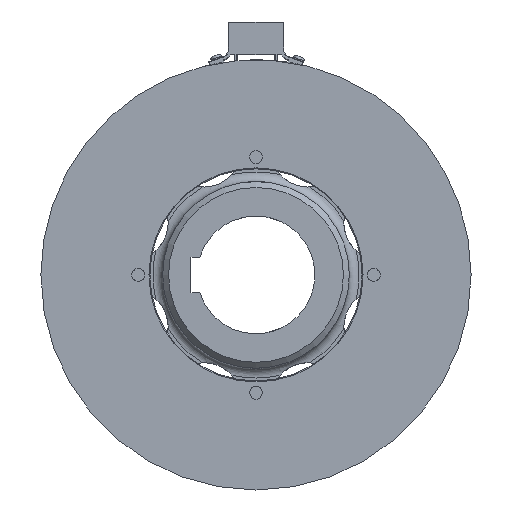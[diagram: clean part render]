
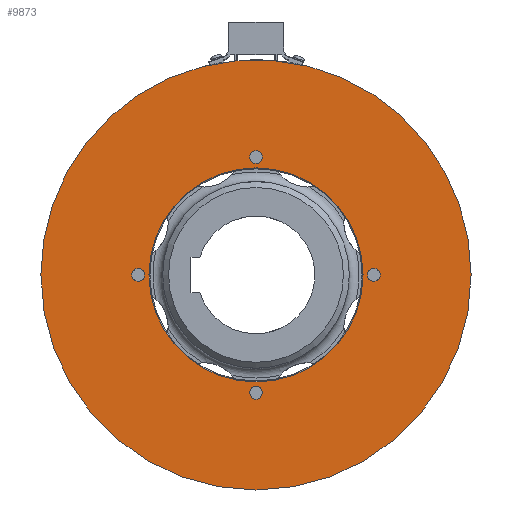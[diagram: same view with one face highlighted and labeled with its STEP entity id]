
A CAD part, left-side view. The second image highlights one B-rep face of the part: STEP entity #9873.
In plain terms, the highlighted planar face has unit normal (-1, 0, 0).
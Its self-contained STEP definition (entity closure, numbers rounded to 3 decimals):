
#158=PLANE('',#10850);
#347=FACE_BOUND('',#1181,.T.);
#348=FACE_BOUND('',#1182,.T.);
#349=FACE_BOUND('',#1183,.T.);
#350=FACE_BOUND('',#1184,.T.);
#351=FACE_BOUND('',#1185,.T.);
#620=FACE_OUTER_BOUND('',#1180,.T.);
#1180=EDGE_LOOP('',(#7023,#7024,#7025));
#1181=EDGE_LOOP('',(#7026,#7027));
#1182=EDGE_LOOP('',(#7028,#7029));
#1183=EDGE_LOOP('',(#7030,#7031));
#1184=EDGE_LOOP('',(#7032,#7033));
#1185=EDGE_LOOP('',(#7034));
#1588=CIRCLE('',#10255,109.5);
#1589=CIRCLE('',#10256,109.5);
#2010=CIRCLE('',#10821,54.5);
#2014=CIRCLE('',#10830,3.25);
#2015=CIRCLE('',#10831,3.25);
#2016=CIRCLE('',#10833,3.25);
#2017=CIRCLE('',#10834,3.25);
#2018=CIRCLE('',#10836,3.25);
#2019=CIRCLE('',#10837,3.25);
#2020=CIRCLE('',#10839,3.25);
#2021=CIRCLE('',#10840,3.25);
#2029=CIRCLE('',#10851,109.5);
#3499=VERTEX_POINT('',#15110);
#3504=VERTEX_POINT('',#15120);
#3505=VERTEX_POINT('',#15122);
#3945=VERTEX_POINT('',#16676);
#3949=VERTEX_POINT('',#16772);
#3950=VERTEX_POINT('',#16773);
#3951=VERTEX_POINT('',#16778);
#3952=VERTEX_POINT('',#16779);
#3953=VERTEX_POINT('',#16784);
#3954=VERTEX_POINT('',#16785);
#3955=VERTEX_POINT('',#16790);
#3956=VERTEX_POINT('',#16791);
#4473=EDGE_CURVE('',#3505,#3504,#1588,.T.);
#4474=EDGE_CURVE('',#3499,#3505,#1589,.T.);
#5067=EDGE_CURVE('',#3945,#3945,#2010,.T.);
#5077=EDGE_CURVE('',#3949,#3950,#2014,.T.);
#5078=EDGE_CURVE('',#3950,#3949,#2015,.T.);
#5080=EDGE_CURVE('',#3951,#3952,#2016,.T.);
#5081=EDGE_CURVE('',#3952,#3951,#2017,.T.);
#5083=EDGE_CURVE('',#3953,#3954,#2018,.T.);
#5084=EDGE_CURVE('',#3954,#3953,#2019,.T.);
#5086=EDGE_CURVE('',#3955,#3956,#2020,.T.);
#5087=EDGE_CURVE('',#3956,#3955,#2021,.T.);
#5098=EDGE_CURVE('',#3504,#3499,#2029,.T.);
#7023=ORIENTED_EDGE('',*,*,#4473,.T.);
#7024=ORIENTED_EDGE('',*,*,#5098,.T.);
#7025=ORIENTED_EDGE('',*,*,#4474,.T.);
#7026=ORIENTED_EDGE('',*,*,#5086,.T.);
#7027=ORIENTED_EDGE('',*,*,#5087,.T.);
#7028=ORIENTED_EDGE('',*,*,#5083,.T.);
#7029=ORIENTED_EDGE('',*,*,#5084,.T.);
#7030=ORIENTED_EDGE('',*,*,#5080,.T.);
#7031=ORIENTED_EDGE('',*,*,#5081,.T.);
#7032=ORIENTED_EDGE('',*,*,#5077,.T.);
#7033=ORIENTED_EDGE('',*,*,#5078,.T.);
#7034=ORIENTED_EDGE('',*,*,#5067,.F.);
#9873=ADVANCED_FACE('',(#620,#347,#348,#349,#350,#351),#158,.T.);
#10255=AXIS2_PLACEMENT_3D('',#15123,#11720,#11721);
#10256=AXIS2_PLACEMENT_3D('',#15124,#11722,#11723);
#10821=AXIS2_PLACEMENT_3D('',#16678,#12980,#12981);
#10830=AXIS2_PLACEMENT_3D('',#16774,#12999,#13000);
#10831=AXIS2_PLACEMENT_3D('',#16775,#13001,#13002);
#10833=AXIS2_PLACEMENT_3D('',#16780,#13006,#13007);
#10834=AXIS2_PLACEMENT_3D('',#16781,#13008,#13009);
#10836=AXIS2_PLACEMENT_3D('',#16786,#13013,#13014);
#10837=AXIS2_PLACEMENT_3D('',#16787,#13015,#13016);
#10839=AXIS2_PLACEMENT_3D('',#16792,#13020,#13021);
#10840=AXIS2_PLACEMENT_3D('',#16793,#13022,#13023);
#10850=AXIS2_PLACEMENT_3D('',#16812,#13045,#13046);
#10851=AXIS2_PLACEMENT_3D('',#16813,#13047,#13048);
#11720=DIRECTION('center_axis',(-1.,0.,0.));
#11721=DIRECTION('ref_axis',(0.,1.,0.));
#11722=DIRECTION('center_axis',(-1.,0.,0.));
#11723=DIRECTION('ref_axis',(0.,1.,0.));
#12980=DIRECTION('center_axis',(-1.,0.,0.));
#12981=DIRECTION('ref_axis',(0.,-1.,0.));
#12999=DIRECTION('center_axis',(1.,0.,0.));
#13000=DIRECTION('ref_axis',(0.,0.,
1.));
#13001=DIRECTION('center_axis',(1.,0.,0.));
#13002=DIRECTION('ref_axis',(0.,0.,
1.));
#13006=DIRECTION('center_axis',(1.,0.,0.));
#13007=DIRECTION('ref_axis',(0.,0.,
1.));
#13008=DIRECTION('center_axis',(1.,0.,0.));
#13009=DIRECTION('ref_axis',(0.,0.,
1.));
#13013=DIRECTION('center_axis',(1.,0.,0.));
#13014=DIRECTION('ref_axis',(0.,0.,
1.));
#13015=DIRECTION('center_axis',(1.,0.,0.));
#13016=DIRECTION('ref_axis',(0.,0.,
1.));
#13020=DIRECTION('center_axis',(1.,0.,0.));
#13021=DIRECTION('ref_axis',(0.,0.,
1.));
#13022=DIRECTION('center_axis',(1.,0.,0.));
#13023=DIRECTION('ref_axis',(0.,0.,
1.));
#13045=DIRECTION('center_axis',(-1.,0.,0.));
#13046=DIRECTION('ref_axis',(0.,0.,
1.));
#13047=DIRECTION('center_axis',(-1.,0.,0.));
#13048=DIRECTION('ref_axis',(0.,1.,0.));
#15110=CARTESIAN_POINT('',(-18.,9.682,109.071));
#15120=CARTESIAN_POINT('',(-18.,-109.5,0.));
#15122=CARTESIAN_POINT('',(-18.,109.5,0.));
#15123=CARTESIAN_POINT('Origin',(-18.,0.,0.));
#15124=CARTESIAN_POINT('Origin',(-18.,0.,0.));
#16676=CARTESIAN_POINT('',(-18.,54.5,0.));
#16678=CARTESIAN_POINT('Origin',(-18.,0.,0.));
#16772=CARTESIAN_POINT('',(-18.,-60.,3.25));
#16773=CARTESIAN_POINT('',(-18.,-60.,-3.25));
#16774=CARTESIAN_POINT('Origin',(-18.,-60.,0.));
#16775=CARTESIAN_POINT('Origin',(-18.,-60.,0.));
#16778=CARTESIAN_POINT('',(-18.,60.,3.25));
#16779=CARTESIAN_POINT('',(-18.,60.,-3.25));
#16780=CARTESIAN_POINT('Origin',(-18.,60.,0.));
#16781=CARTESIAN_POINT('Origin',(-18.,60.,0.));
#16784=CARTESIAN_POINT('',(-18.,0.,63.25));
#16785=CARTESIAN_POINT('',(-18.,0.,56.75));
#16786=CARTESIAN_POINT('Origin',(-18.,0.,60.));
#16787=CARTESIAN_POINT('Origin',(-18.,0.,60.));
#16790=CARTESIAN_POINT('',(-18.,0.,-56.75));
#16791=CARTESIAN_POINT('',(-18.,0.,-63.25));
#16792=CARTESIAN_POINT('Origin',(-18.,0.,-60.));
#16793=CARTESIAN_POINT('Origin',(-18.,0.,-60.));
#16812=CARTESIAN_POINT('Origin',(-18.,81.75,0.));
#16813=CARTESIAN_POINT('Origin',(-18.,0.,0.));
